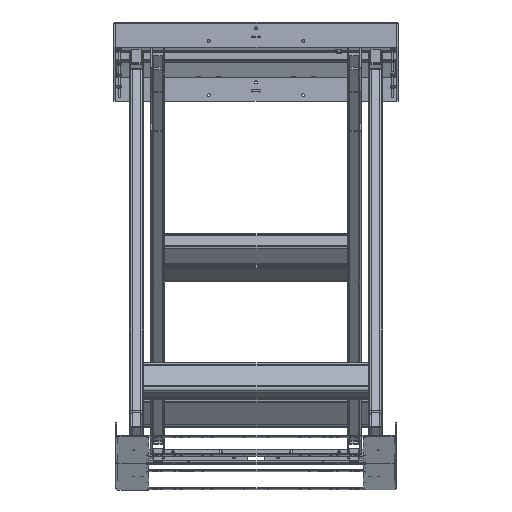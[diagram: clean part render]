
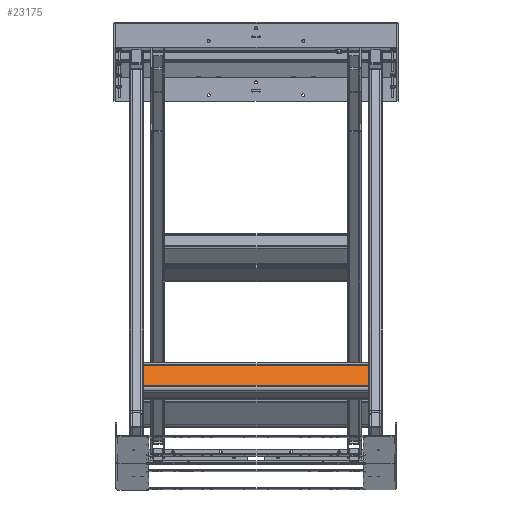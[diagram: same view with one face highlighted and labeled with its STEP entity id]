
A CAD part, front view. The second image highlights one B-rep face of the part: STEP entity #23175.
In plain terms, the highlighted planar face has unit normal (0, -0.751, 0.66) as drawn and (-1, 0, 0) by its records, which use the part's own axes.
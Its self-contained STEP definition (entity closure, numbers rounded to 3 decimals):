
#1053=PLANE('',#25786);
#3085=LINE('',#39848,#5128);
#3093=LINE('',#39873,#5136);
#3094=LINE('',#39875,#5137);
#3095=LINE('',#39876,#5138);
#5128=VECTOR('',#32653,10.);
#5136=VECTOR('',#32681,10.);
#5137=VECTOR('',#32682,10.);
#5138=VECTOR('',#32683,10.);
#6662=FACE_OUTER_BOUND('',#8185,.T.);
#8185=EDGE_LOOP('',(#21383,#21384,#21385,#21386));
#11553=VERTEX_POINT('',#39845);
#11554=VERTEX_POINT('',#39847);
#11561=VERTEX_POINT('',#39872);
#11562=VERTEX_POINT('',#39874);
#14831=EDGE_CURVE('',#11554,#11553,#3085,.T.);
#14844=EDGE_CURVE('',#11553,#11561,#3093,.T.);
#14845=EDGE_CURVE('',#11562,#11561,#3094,.T.);
#14846=EDGE_CURVE('',#11554,#11562,#3095,.T.);
#21383=ORIENTED_EDGE('',*,*,#14844,.T.);
#21384=ORIENTED_EDGE('',*,*,#14845,.F.);
#21385=ORIENTED_EDGE('',*,*,#14846,.F.);
#21386=ORIENTED_EDGE('',*,*,#14831,.T.);
#23175=ADVANCED_FACE('',(#6662),#1053,.T.);
#25786=AXIS2_PLACEMENT_3D('',#39871,#32679,#32680);
#32653=DIRECTION('',(0.,0.,1.));
#32679=DIRECTION('center_axis',(-1.,0.,0.));
#32680=DIRECTION('ref_axis',(0.,0.,1.));
#32681=DIRECTION('',(0.,1.,0.));
#32682=DIRECTION('',(0.,0.,1.));
#32683=DIRECTION('',(0.,1.,0.));
#39845=CARTESIAN_POINT('',(-40.,-60.,949.));
#39847=CARTESIAN_POINT('',(-40.,-60.,0.));
#39848=CARTESIAN_POINT('',(-40.,-60.,0.));
#39871=CARTESIAN_POINT('Origin',(-40.,-60.,0.));
#39872=CARTESIAN_POINT('',(-40.,60.,949.));
#39873=CARTESIAN_POINT('',(-40.,-30.,949.));
#39874=CARTESIAN_POINT('',(-40.,60.,0.));
#39875=CARTESIAN_POINT('',(-40.,60.,0.));
#39876=CARTESIAN_POINT('',(-40.,-30.,0.));
